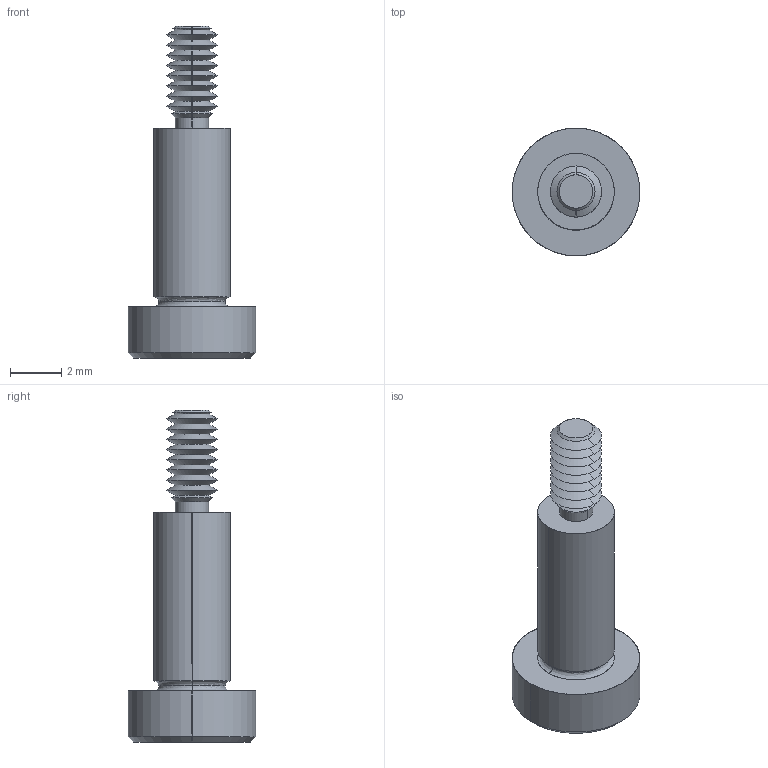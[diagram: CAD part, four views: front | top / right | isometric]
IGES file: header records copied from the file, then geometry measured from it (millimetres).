
Start section: SolidWorks IGES file using analytic representation for surfaces
Global section: file name: C:\Users\IanO\Documents\Temp Folder\GENERAL\SCREW REVISION\P0130_v2\P0130.T5_v2_20220106_IGES\P0130.030-007-T5.igs; native system: SolidWorks 2019; preprocessor: SolidWorks 2019; author: IanO; date: 220106.215952; units: millimetre
Bounding box: 5 x 5 x 13 mm (x, y, z)
Surface area: 182.2 mm2 (no closed solid volume)
Topology: 0 solids, 0 shells, 76 faces, 508 edges, 506 vertices
Faces by surface type: revolution 56, bspline 20
